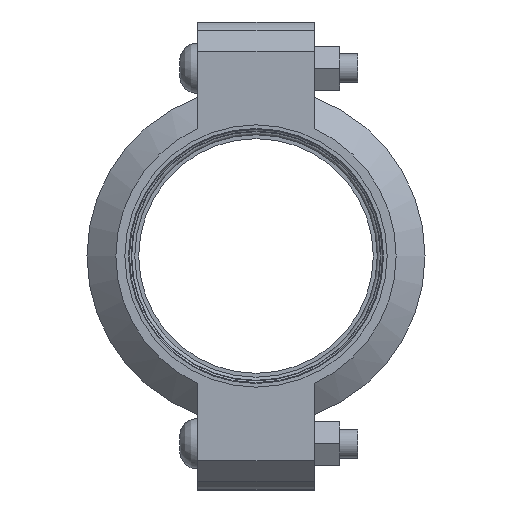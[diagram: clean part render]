
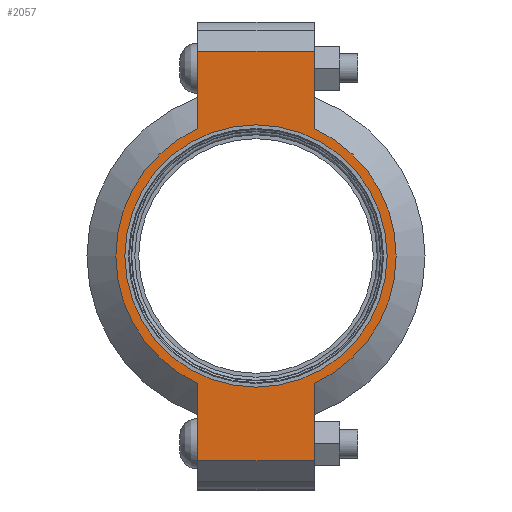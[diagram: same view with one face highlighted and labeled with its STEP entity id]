
A CAD part, left-side view. The second image highlights one B-rep face of the part: STEP entity #2057.
In plain terms, the highlighted planar face has unit normal (-1, 0, 0) as drawn and (0, 0, 1) by its records, which use the part's own axes.
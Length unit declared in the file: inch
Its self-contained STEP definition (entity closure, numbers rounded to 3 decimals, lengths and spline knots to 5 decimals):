
#190=LINE('',#3668,#289);
#198=LINE('',#3704,#297);
#205=LINE('',#3725,#304);
#214=LINE('',#3757,#313);
#215=LINE('',#3761,#314);
#216=LINE('',#3763,#315);
#289=VECTOR('',#3002,0.3937);
#297=VECTOR('',#3018,0.3937);
#304=VECTOR('',#3037,0.3937);
#313=VECTOR('',#3062,0.3937);
#314=VECTOR('',#3067,0.3937);
#315=VECTOR('',#3068,0.3937);
#375=FACE_BOUND('',#645,.T.);
#421=PLANE('',#2422);
#517=FACE_OUTER_BOUND('',#644,.T.);
#644=EDGE_LOOP('',(#1786,#1787,#1788,#1789,#1790,#1791,#1792,#1793));
#645=EDGE_LOOP('',(#1794));
#792=CIRCLE('',#2364,2.25);
#818=CIRCLE('',#2423,2.405);
#819=CIRCLE('',#2424,2.405);
#943=VERTEX_POINT('',#3484);
#986=VERTEX_POINT('',#3665);
#987=VERTEX_POINT('',#3667);
#998=VERTEX_POINT('',#3699);
#999=VERTEX_POINT('',#3703);
#1006=VERTEX_POINT('',#3722);
#1007=VERTEX_POINT('',#3724);
#1017=VERTEX_POINT('',#3760);
#1018=VERTEX_POINT('',#3762);
#1180=EDGE_CURVE('',#943,#943,#792,.T.);
#1241=EDGE_CURVE('',#987,#986,#190,.T.);
#1255=EDGE_CURVE('',#999,#998,#198,.T.);
#1265=EDGE_CURVE('',#1007,#1006,#205,.T.);
#1280=EDGE_CURVE('',#999,#986,#214,.T.);
#1281=EDGE_CURVE('',#998,#1007,#818,.T.);
#1282=EDGE_CURVE('',#1017,#1006,#215,.T.);
#1283=EDGE_CURVE('',#1017,#1018,#216,.T.);
#1284=EDGE_CURVE('',#1018,#987,#819,.T.);
#1786=ORIENTED_EDGE('',*,*,#1280,.F.);
#1787=ORIENTED_EDGE('',*,*,#1255,.T.);
#1788=ORIENTED_EDGE('',*,*,#1281,.T.);
#1789=ORIENTED_EDGE('',*,*,#1265,.T.);
#1790=ORIENTED_EDGE('',*,*,#1282,.F.);
#1791=ORIENTED_EDGE('',*,*,#1283,.T.);
#1792=ORIENTED_EDGE('',*,*,#1284,.T.);
#1793=ORIENTED_EDGE('',*,*,#1241,.T.);
#1794=ORIENTED_EDGE('',*,*,#1180,.T.);
#2057=ADVANCED_FACE('',(#517,#375),#421,.T.);
#2364=AXIS2_PLACEMENT_3D('',#3486,#2878,#2879);
#2422=AXIS2_PLACEMENT_3D('',#3758,#3063,#3064);
#2423=AXIS2_PLACEMENT_3D('',#3759,#3065,#3066);
#2424=AXIS2_PLACEMENT_3D('',#3764,#3069,#3070);
#2878=DIRECTION('center_axis',(0.,0.,-1.));
#2879=DIRECTION('ref_axis',(1.,0.,0.));
#3002=DIRECTION('',(1.,0.,0.));
#3018=DIRECTION('',(-1.,0.,0.));
#3037=DIRECTION('',(-1.,0.,0.));
#3062=DIRECTION('',(0.,-1.,0.));
#3063=DIRECTION('center_axis',(0.,0.,1.));
#3064=DIRECTION('ref_axis',(-1.,0.,0.));
#3065=DIRECTION('center_axis',(0.,0.,1.));
#3066=DIRECTION('ref_axis',(1.,0.,0.));
#3067=DIRECTION('',(0.,1.,0.));
#3068=DIRECTION('',(1.,0.,0.));
#3069=DIRECTION('center_axis',(0.,0.,1.));
#3070=DIRECTION('ref_axis',(1.,0.,0.));
#3484=CARTESIAN_POINT('',(-2.25,0.,1.065));
#3486=CARTESIAN_POINT('Origin',(0.,0.,1.065));
#3665=CARTESIAN_POINT('',(3.515,-1.,1.065));
#3667=CARTESIAN_POINT('',(2.18724,-1.,1.065));
#3668=CARTESIAN_POINT('',(4.015,-1.,1.065));
#3699=CARTESIAN_POINT('',(2.18724,1.,1.065));
#3703=CARTESIAN_POINT('',(3.515,1.,1.065));
#3704=CARTESIAN_POINT('',(-4.015,1.,1.065));
#3722=CARTESIAN_POINT('',(-3.515,1.,1.065));
#3724=CARTESIAN_POINT('',(-2.18724,1.,1.065));
#3725=CARTESIAN_POINT('',(-4.015,1.,1.065));
#3757=CARTESIAN_POINT('',(3.515,-0.5,1.065));
#3758=CARTESIAN_POINT('Origin',(0.,0.,
1.065));
#3759=CARTESIAN_POINT('Origin',(0.,0.,1.065));
#3760=CARTESIAN_POINT('',(-3.515,-1.,1.065));
#3761=CARTESIAN_POINT('',(-3.515,0.5,1.065));
#3762=CARTESIAN_POINT('',(-2.18724,-1.,1.065));
#3763=CARTESIAN_POINT('',(4.015,-1.,1.065));
#3764=CARTESIAN_POINT('Origin',(0.,0.,1.065));
